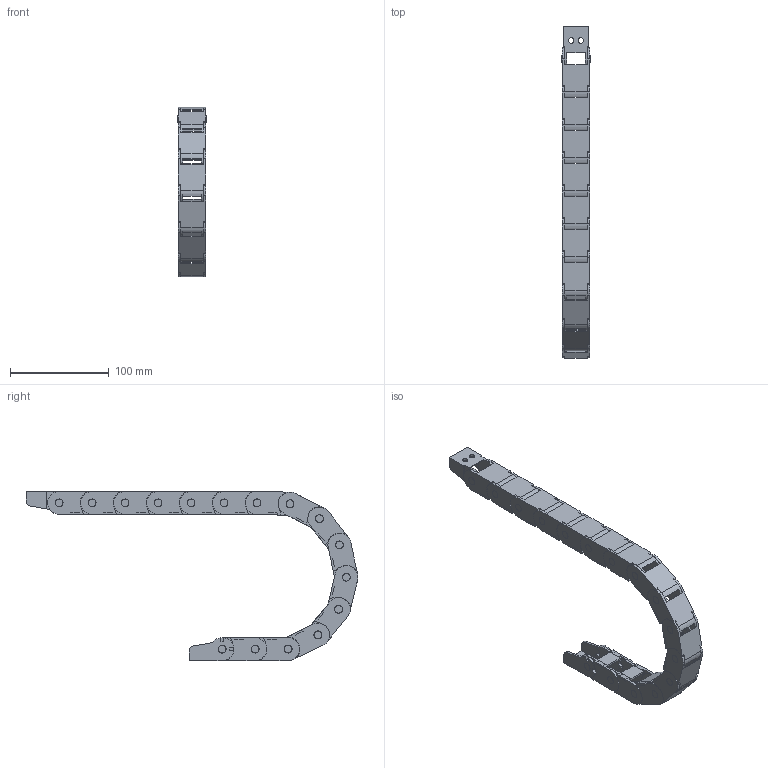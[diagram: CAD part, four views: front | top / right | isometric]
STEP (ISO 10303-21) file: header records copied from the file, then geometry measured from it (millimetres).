
FILE_DESCRIPTION((''),'2;1');
FILE_NAME('NK-18X18-R75_ASM','2022-05-11T16:22:45',('admin'),(''),'CREO PARAMETRIC BY PTC INC, 2021164','CREO PARAMETRIC BY PTC INC, 2021164','');
FILE_SCHEMA(('CONFIG_CONTROL_DESIGN','GEOMETRIC_VALIDATION_PROPERTIES_MIM'));
Length unit declared in the file: millimetre
Products named in the file (5): 18X18-R75; PIAN-1818; LTT-18X18-1; LTT-18X18-2; NK-18X18-R75_ASM
Assembly tree (32 placements, depth 2):
  NK-18X18-R75_ASM
    18X18-R75  x15
    PIAN-1818  x15
    LTT-18X18-1
    LTT-18X18-2
Bounding box: 29 x 336.93 x 171.96 mm (x, y, z)
Volume: 144307.4 mm3; surface area: 130283.2 mm2
Topology: 32 solids, 32 shells, 1172 faces, 3228 edges, 2152 vertices
Faces by surface type: plane 778, cylinder 394
Entity records: 8802 total; most frequent: CARTESIAN_POINT 1002, DIRECTION 978, ORIENTED_EDGE 912, PRESENTATION_STYLE_ASSIGNMENT 624, STYLED_ITEM 624, CURVE_STYLE 456, EDGE_CURVE 456, VECTOR 336
